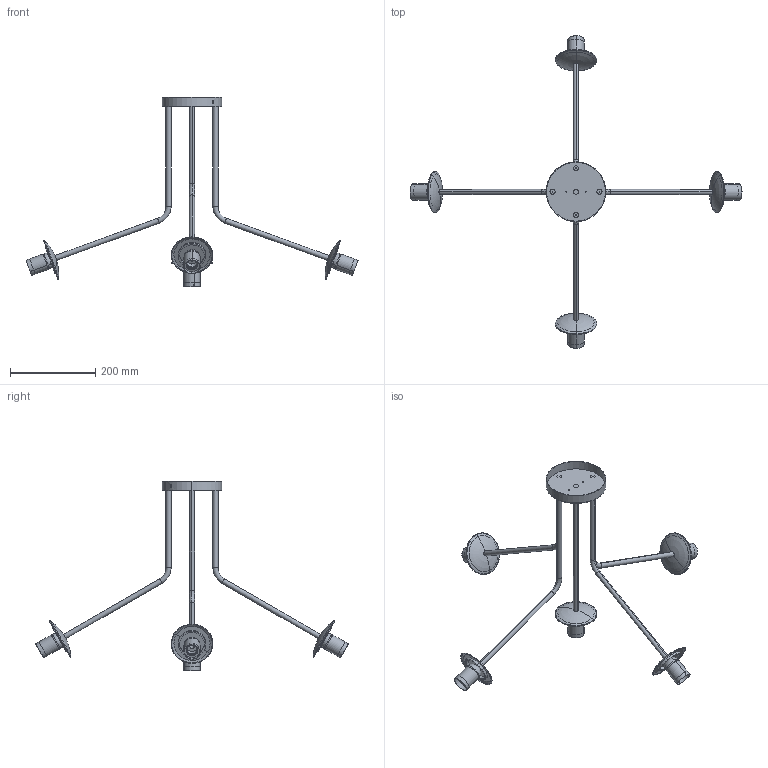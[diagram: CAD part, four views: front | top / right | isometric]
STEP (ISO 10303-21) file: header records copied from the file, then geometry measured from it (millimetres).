
FILE_DESCRIPTION (( 'STEP AP203' ), '1' );
FILE_NAME ('C3946480 - COLGANTE 5 LUCES.STEP', '2026-02-13T12:39:37', ( '' ), ( '' ), 'SwSTEP 2.0', 'SolidWorks 2025', '' );
FILE_SCHEMA (( 'CONFIG_CONTROL_DESIGN' ));
Length unit declared in the file: millimetre
Products named in the file (8): Base Parma Shifa; Portalamparas E27 Parma; BrazosCurvos_BrazoCurvoCorto; C3946480 - COLGANTE 5 LUCES; Base_Canopy_5Luces; BaseParmaConCasquillo; BrazoRecto; BrazosCurvos_BrazoCurvoLargo
Assembly tree (13 placements, depth 3):
  C3946480 - COLGANTE 5 LUCES
    Base_Canopy_5Luces
    BrazoRecto
    BrazosCurvos_BrazoCurvoCorto  x2
    BrazosCurvos_BrazoCurvoLargo  x2
    BaseParmaConCasquillo  x5
      Base Parma Shifa
      Portalamparas E27 Parma
Bounding box: 778.88 x 733.45 x 444.45 mm (x, y, z)
Volume: 635781.4 mm3; surface area: 298260.4 mm2
Topology: 16 solids, 16 shells, 365 faces, 795 edges, 490 vertices
Faces by surface type: cylinder 213, plane 70, torus 48, bspline 24, cone 10
Entity records: 7054 total; most frequent: CARTESIAN_POINT 3663, DIRECTION 541, ORIENTED_EDGE 470, AXIS2_PLACEMENT_3D 237, EDGE_CURVE 235, VERTEX_POINT 146, EDGE_LOOP 133, CIRCLE 119
